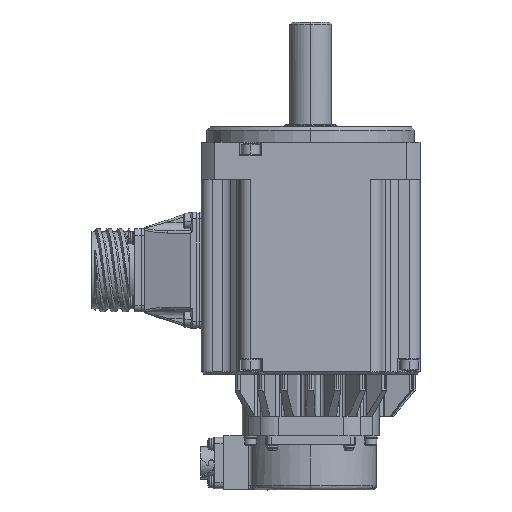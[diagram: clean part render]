
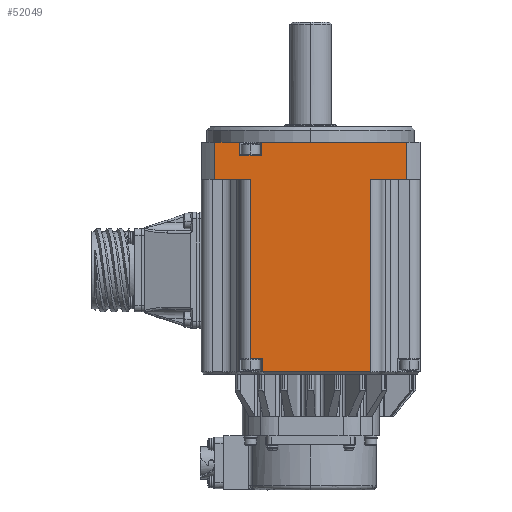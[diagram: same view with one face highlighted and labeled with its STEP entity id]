
A CAD part, left-side view. The second image highlights one B-rep face of the part: STEP entity #52049.
In plain terms, the highlighted planar face has unit normal (-1, 0, 0) as drawn and (0, 0, -1) by its records, which use the part's own axes.
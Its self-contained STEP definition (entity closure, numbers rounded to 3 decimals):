
#1016 = VECTOR ( 'NONE', #80493, 1000. ) ;
#1239 = VERTEX_POINT ( 'NONE', #34074 ) ;
#1275 = ORIENTED_EDGE ( 'NONE', *, *, #19947, .F. ) ;
#1402 = DIRECTION ( 'NONE',  ( -1., 0., 0. ) ) ;
#2817 = LINE ( 'NONE', #47592, #18958 ) ;
#3271 = DIRECTION ( 'NONE',  ( -1., 0., 0. ) ) ;
#3721 = VECTOR ( 'NONE', #68122, 1000. ) ;
#3847 = LINE ( 'NONE', #58322, #22155 ) ;
#5562 = CARTESIAN_POINT ( 'NONE',  ( -186.556, -4.505, -100. ) ) ;
#8345 = EDGE_CURVE ( 'NONE', #17827, #1239, #49230, .T. ) ;
#8698 = EDGE_CURVE ( 'NONE', #10834, #87406, #38472, .T. ) ;
#10361 = DIRECTION ( 'NONE',  ( 0., 1., 0. ) ) ;
#10820 = EDGE_CURVE ( 'NONE', #1239, #10834, #45768, .T. ) ;
#10834 = VERTEX_POINT ( 'NONE', #18388 ) ;
#11108 = DIRECTION ( 'NONE',  ( 0., -1., 0. ) ) ;
#12065 = CARTESIAN_POINT ( 'NONE',  ( -23.056, 0.495, -100. ) ) ;
#15082 = VECTOR ( 'NONE', #11108, 1000. ) ;
#17086 = VECTOR ( 'NONE', #60010, 1000. ) ;
#17827 = VERTEX_POINT ( 'NONE', #77459 ) ;
#18388 = CARTESIAN_POINT ( 'NONE',  ( -81.556, 49.995, -100. ) ) ;
#18558 = CARTESIAN_POINT ( 'NONE',  ( -23.056, -4.505, -100. ) ) ;
#18958 = VECTOR ( 'NONE', #27228, 1000. ) ;
#19540 = EDGE_CURVE ( 'NONE', #82295, #37045, #41368, .T. ) ;
#19648 = VECTOR ( 'NONE', #53552, 1000. ) ;
#19754 = PLANE ( 'NONE',  #80635 ) ;
#19947 = EDGE_CURVE ( 'NONE', #40922, #53798, #56320, .T. ) ;
#21797 = LINE ( 'NONE', #5562, #19648 ) ;
#22131 = EDGE_LOOP ( 'NONE', ( #77950, #53764, #31706, #79600, #24436, #56479, #42999, #57850, #22866, #77108, #23003, #49538, #1275, #47808 ) ) ;
#22155 = VECTOR ( 'NONE', #10361, 1000. ) ;
#22420 = VECTOR ( 'NONE', #3271, 1000. ) ;
#22866 = ORIENTED_EDGE ( 'NONE', *, *, #79738, .F. ) ;
#23003 = ORIENTED_EDGE ( 'NONE', *, *, #23855, .F. ) ;
#23495 = VERTEX_POINT ( 'NONE', #41084 ) ;
#23855 = EDGE_CURVE ( 'NONE', #23495, #82295, #21797, .T. ) ;
#23924 = CARTESIAN_POINT ( 'NONE',  ( -23.056, 71.839, -100. ) ) ;
#24436 = ORIENTED_EDGE ( 'NONE', *, *, #83762, .F. ) ;
#25694 = VERTEX_POINT ( 'NONE', #70502 ) ;
#25802 = CARTESIAN_POINT ( 'NONE',  ( -23.056, 55.495, -100. ) ) ;
#26402 = DIRECTION ( 'NONE',  ( -1., 0., 0. ) ) ;
#26629 = DIRECTION ( 'NONE',  ( 0., 0., 1. ) ) ;
#27228 = DIRECTION ( 'NONE',  ( 1., 0., 0. ) ) ;
#27778 = VECTOR ( 'NONE', #26402, 1000. ) ;
#31706 = ORIENTED_EDGE ( 'NONE', *, *, #10820, .F. ) ;
#31871 = CARTESIAN_POINT ( 'NONE',  ( -81.556, -4.505, -100. ) ) ;
#34074 = CARTESIAN_POINT ( 'NONE',  ( -81.556, 0.495, -100. ) ) ;
#35601 = LINE ( 'NONE', #23924, #51687 ) ;
#36860 = CARTESIAN_POINT ( 'NONE',  ( -87.556, 49.995, -100. ) ) ;
#37045 = VERTEX_POINT ( 'NONE', #65176 ) ;
#37068 = VECTOR ( 'NONE', #70290, 1000. ) ;
#38409 = CARTESIAN_POINT ( 'NONE',  ( -186.556, -4.505, -100. ) ) ;
#38472 = LINE ( 'NONE', #85464, #22420 ) ;
#38677 = CARTESIAN_POINT ( 'NONE',  ( -186.556, -15.848, -100. ) ) ;
#40922 = VERTEX_POINT ( 'NONE', #53684 ) ;
#41084 = CARTESIAN_POINT ( 'NONE',  ( -186.556, 71.839, -100. ) ) ;
#41368 = LINE ( 'NONE', #84071, #37068 ) ;
#42999 = ORIENTED_EDGE ( 'NONE', *, *, #58295, .F. ) ;
#43083 = VECTOR ( 'NONE', #55635, 1000. ) ;
#43637 = VECTOR ( 'NONE', #72921, 1000. ) ;
#45768 = LINE ( 'NONE', #31871, #43637 ) ;
#47592 = CARTESIAN_POINT ( 'NONE',  ( -23.056, -15.848, -100. ) ) ;
#47808 = ORIENTED_EDGE ( 'NONE', *, *, #84933, .F. ) ;
#48753 = CARTESIAN_POINT ( 'NONE',  ( -87.556, -4.505, -100. ) ) ;
#49230 = LINE ( 'NONE', #12065, #17086 ) ;
#49538 = ORIENTED_EDGE ( 'NONE', *, *, #75529, .F. ) ;
#50810 = VERTEX_POINT ( 'NONE', #59727 ) ;
#51687 = VECTOR ( 'NONE', #64990, 1000. ) ;
#52049 = ADVANCED_FACE ( 'NONE', ( #74457 ), #19754, .F. ) ;
#53552 = DIRECTION ( 'NONE',  ( 0., -1., 0. ) ) ;
#53684 = CARTESIAN_POINT ( 'NONE',  ( -169.556, 55.495, -100. ) ) ;
#53764 = ORIENTED_EDGE ( 'NONE', *, *, #8698, .F. ) ;
#53798 = VERTEX_POINT ( 'NONE', #84136 ) ;
#54513 = VERTEX_POINT ( 'NONE', #66039 ) ;
#55635 = DIRECTION ( 'NONE',  ( 0., 1., 0. ) ) ;
#56320 = LINE ( 'NONE', #61207, #3721 ) ;
#56479 = ORIENTED_EDGE ( 'NONE', *, *, #83397, .F. ) ;
#57850 = ORIENTED_EDGE ( 'NONE', *, *, #75266, .F. ) ;
#58295 = EDGE_CURVE ( 'NONE', #25694, #81994, #71918, .T. ) ;
#58322 = CARTESIAN_POINT ( 'NONE',  ( -169.556, -4.505, -100. ) ) ;
#59727 = CARTESIAN_POINT ( 'NONE',  ( -169.556, -15.848, -100. ) ) ;
#60010 = DIRECTION ( 'NONE',  ( 1., 0., 0. ) ) ;
#61207 = CARTESIAN_POINT ( 'NONE',  ( -169.556, -4.505, -100. ) ) ;
#64990 = DIRECTION ( 'NONE',  ( -1., 0., 0. ) ) ;
#65176 = CARTESIAN_POINT ( 'NONE',  ( -180.556, 60.495, -100. ) ) ;
#65848 = CARTESIAN_POINT ( 'NONE',  ( -180.556, 50.495, -100. ) ) ;
#66039 = CARTESIAN_POINT ( 'NONE',  ( -87.556, 55.495, -100. ) ) ;
#68122 = DIRECTION ( 'NONE',  ( 0., 1., 0. ) ) ;
#69203 = CARTESIAN_POINT ( 'NONE',  ( -23.056, 50.495, -100. ) ) ;
#69687 = LINE ( 'NONE', #73575, #1016 ) ;
#70269 = EDGE_CURVE ( 'NONE', #87406, #54513, #79570, .T. ) ;
#70290 = DIRECTION ( 'NONE',  ( 1., 0., 0. ) ) ;
#70502 = CARTESIAN_POINT ( 'NONE',  ( -186.556, 50.495, -100. ) ) ;
#71287 = CARTESIAN_POINT ( 'NONE',  ( -186.556, 60.495, -100. ) ) ;
#71918 = LINE ( 'NONE', #38409, #15082 ) ;
#72921 = DIRECTION ( 'NONE',  ( 0., 1., 0. ) ) ;
#73575 = CARTESIAN_POINT ( 'NONE',  ( -180.556, -4.505, -100. ) ) ;
#74457 = FACE_OUTER_BOUND ( 'NONE', #22131, .T. ) ;
#74565 = DIRECTION ( 'NONE',  ( 1., 0., 0. ) ) ;
#75266 = EDGE_CURVE ( 'NONE', #78849, #25694, #84998, .T. ) ;
#75529 = EDGE_CURVE ( 'NONE', #53798, #23495, #35601, .T. ) ;
#77108 = ORIENTED_EDGE ( 'NONE', *, *, #19540, .F. ) ;
#77459 = CARTESIAN_POINT ( 'NONE',  ( -169.556, 0.495, -100. ) ) ;
#77950 = ORIENTED_EDGE ( 'NONE', *, *, #70269, .F. ) ;
#78849 = VERTEX_POINT ( 'NONE', #65848 ) ;
#79570 = LINE ( 'NONE', #48753, #43083 ) ;
#79600 = ORIENTED_EDGE ( 'NONE', *, *, #8345, .F. ) ;
#79738 = EDGE_CURVE ( 'NONE', #37045, #78849, #69687, .T. ) ;
#80493 = DIRECTION ( 'NONE',  ( 0., -1., 0. ) ) ;
#80635 = AXIS2_PLACEMENT_3D ( 'NONE', #18558, #26629, #74565 ) ;
#80682 = VECTOR ( 'NONE', #1402, 1000. ) ;
#81994 = VERTEX_POINT ( 'NONE', #38677 ) ;
#82295 = VERTEX_POINT ( 'NONE', #71287 ) ;
#82481 = LINE ( 'NONE', #25802, #27778 ) ;
#83397 = EDGE_CURVE ( 'NONE', #81994, #50810, #2817, .T. ) ;
#83762 = EDGE_CURVE ( 'NONE', #50810, #17827, #3847, .T. ) ;
#84071 = CARTESIAN_POINT ( 'NONE',  ( -23.056, 60.495, -100. ) ) ;
#84136 = CARTESIAN_POINT ( 'NONE',  ( -169.556, 71.839, -100. ) ) ;
#84933 = EDGE_CURVE ( 'NONE', #54513, #40922, #82481, .T. ) ;
#84998 = LINE ( 'NONE', #69203, #80682 ) ;
#85464 = CARTESIAN_POINT ( 'NONE',  ( -23.056, 49.995, -100. ) ) ;
#87406 = VERTEX_POINT ( 'NONE', #36860 ) ;
